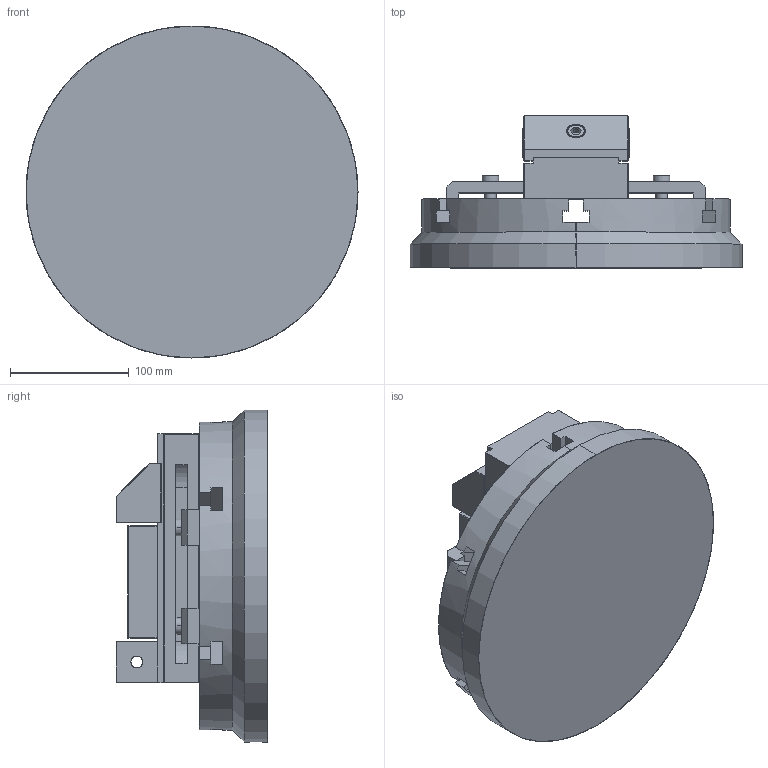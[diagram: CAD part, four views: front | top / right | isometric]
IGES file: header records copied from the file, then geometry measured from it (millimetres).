
Start section: SolidWorks IGES file using analytic representation for surfaces
Global section: file name: J:\Scolaire\BAC Pro\Epreuves professionnelles\E2\CD\Dossier Examinateurs\Dessins CN 5 axes\IGES\Plateau monté.IGS; native system: SolidWorks 2005 by SolidWorks Corporation; preprocessor: SolidWorks 2005 by SolidWorks Corporation; author: Famille Couzi; date: 091204.123430; units: millimetre
Bounding box: 280 x 128 x 280 mm (x, y, z)
Surface area: 329592 mm2 (no closed solid volume)
Topology: 0 solids, 0 shells, 234 faces, 2099 edges, 2099 vertices
Faces by surface type: bspline 186, revolution 48
